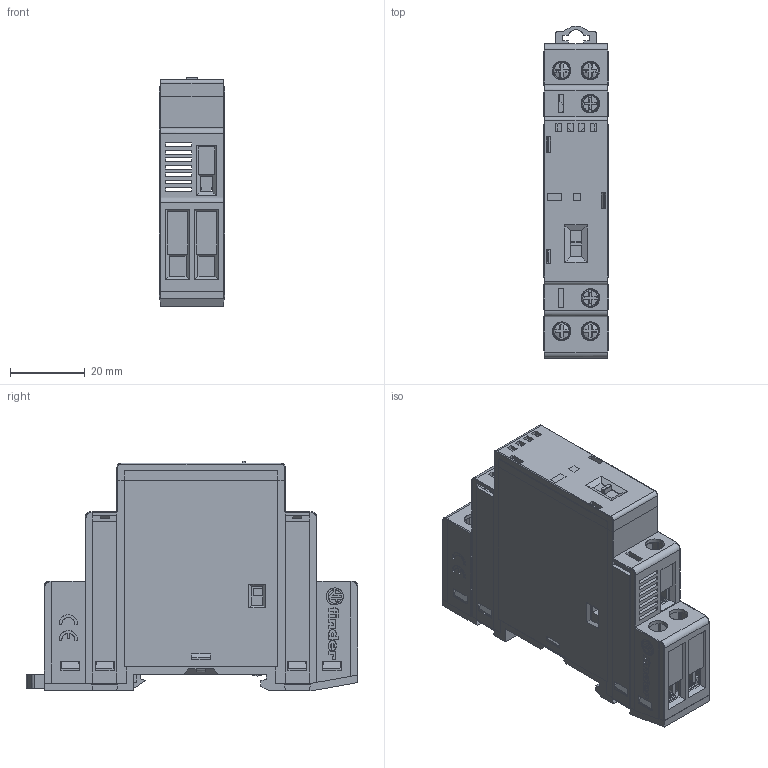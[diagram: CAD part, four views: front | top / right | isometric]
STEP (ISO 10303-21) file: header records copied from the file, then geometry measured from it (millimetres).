
FILE_DESCRIPTION(('STEP AP214'),'2;1');
FILE_NAME('2232.stp','2020-10-09T11:11:08',(''),(''),'2007.1.106','THINKDESIGN','');
FILE_SCHEMA(('AUTOMOTIVE_DESIGN'));
Length unit declared in the file: millimetre
Products named in the file (1): top
Bounding box: 17.5 x 88.85 x 61.3 mm (x, y, z)
Surface area: 20965.2 mm2 (no closed solid volume)
Topology: 0 solids, 0 shells, 1669 faces, 9072 edges, 9064 vertices
Faces by surface type: bspline 1669
Entity records: 63651 total; most frequent: CARTESIAN_POINT 39631, COMPOSITE_CURVE_SEGMENT 9064, QUASI_UNIFORM_CURVE 6915, OUTER_BOUNDARY_CURVE 1669, CURVE_BOUNDED_SURFACE 1669, STYLED_ITEM 1669, B_SPLINE_SURFACE_WITH_KNOTS 1451, B_SPLINE_CURVE_WITH_KNOTS 1375
